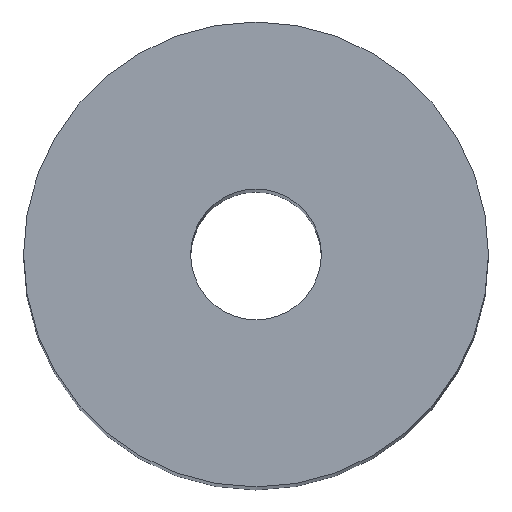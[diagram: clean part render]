
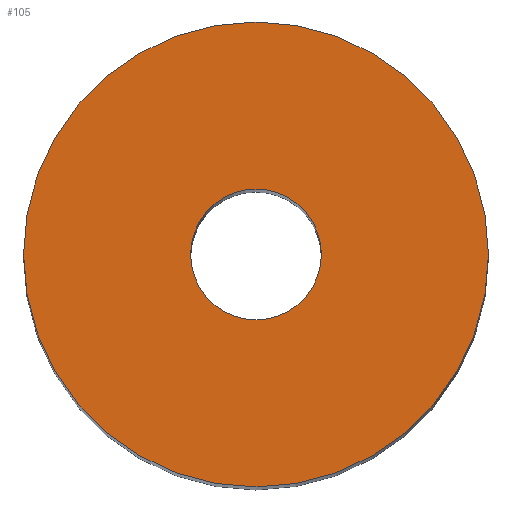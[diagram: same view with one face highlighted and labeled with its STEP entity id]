
A CAD part, top view. The second image highlights one B-rep face of the part: STEP entity #105.
In plain terms, the highlighted planar face has unit normal (0, 0, 1).
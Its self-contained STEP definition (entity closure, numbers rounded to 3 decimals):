
#21 = EDGE_CURVE('',#22,#22,#24,.T.);
#22 = VERTEX_POINT('',#23);
#23 = CARTESIAN_POINT('',(8.,0.,60.));
#24 = SURFACE_CURVE('',#25,(#30,#42),.PCURVE_S1.);
#25 = CIRCLE('',#26,8.);
#26 = AXIS2_PLACEMENT_3D('',#27,#28,#29);
#27 = CARTESIAN_POINT('',(0.,0.,60.));
#28 = DIRECTION('',(0.,0.,1.));
#29 = DIRECTION('',(1.,0.,-0.));
#30 = PCURVE('',#31,#36);
#31 = CYLINDRICAL_SURFACE('',#32,8.);
#32 = AXIS2_PLACEMENT_3D('',#33,#34,#35);
#33 = CARTESIAN_POINT('',(0.,0.,0.));
#34 = DIRECTION('',(0.,0.,1.));
#35 = DIRECTION('',(1.,0.,-0.));
#36 = DEFINITIONAL_REPRESENTATION('',(#37),#41);
#37 = LINE('',#38,#39);
#38 = CARTESIAN_POINT('',(0.,60.));
#39 = VECTOR('',#40,1.);
#40 = DIRECTION('',(1.,0.));
#41 = ( GEOMETRIC_REPRESENTATION_CONTEXT(2) 
PARAMETRIC_REPRESENTATION_CONTEXT() REPRESENTATION_CONTEXT('2D SPACE',''
  ) );
#42 = PCURVE('',#43,#48);
#43 = PLANE('',#44);
#44 = AXIS2_PLACEMENT_3D('',#45,#46,#47);
#45 = CARTESIAN_POINT('',(0.,0.,60.));
#46 = DIRECTION('',(0.,0.,1.));
#47 = DIRECTION('',(1.,0.,-0.));
#48 = DEFINITIONAL_REPRESENTATION('',(#49),#53);
#49 = CIRCLE('',#50,8.);
#50 = AXIS2_PLACEMENT_2D('',#51,#52);
#51 = CARTESIAN_POINT('',(0.,0.));
#52 = DIRECTION('',(1.,0.));
#53 = ( GEOMETRIC_REPRESENTATION_CONTEXT(2) 
PARAMETRIC_REPRESENTATION_CONTEXT() REPRESENTATION_CONTEXT('2D SPACE',''
  ) );
#105 = ADVANCED_FACE('',(#106,#109),#43,.T.);
#106 = FACE_BOUND('',#107,.T.);
#107 = EDGE_LOOP('',(#108));
#108 = ORIENTED_EDGE('',*,*,#21,.T.);
#109 = FACE_BOUND('',#110,.T.);
#110 = EDGE_LOOP('',(#111));
#111 = ORIENTED_EDGE('',*,*,#112,.F.);
#112 = EDGE_CURVE('',#113,#113,#115,.T.);
#113 = VERTEX_POINT('',#114);
#114 = CARTESIAN_POINT('',(2.25,0.,60.));
#115 = SURFACE_CURVE('',#116,(#121,#128),.PCURVE_S1.);
#116 = CIRCLE('',#117,2.25);
#117 = AXIS2_PLACEMENT_3D('',#118,#119,#120);
#118 = CARTESIAN_POINT('',(0.,0.,60.));
#119 = DIRECTION('',(0.,0.,1.));
#120 = DIRECTION('',(1.,0.,-0.));
#121 = PCURVE('',#43,#122);
#122 = DEFINITIONAL_REPRESENTATION('',(#123),#127);
#123 = CIRCLE('',#124,2.25);
#124 = AXIS2_PLACEMENT_2D('',#125,#126);
#125 = CARTESIAN_POINT('',(0.,0.));
#126 = DIRECTION('',(1.,0.));
#127 = ( GEOMETRIC_REPRESENTATION_CONTEXT(2) 
PARAMETRIC_REPRESENTATION_CONTEXT() REPRESENTATION_CONTEXT('2D SPACE',''
  ) );
#128 = PCURVE('',#129,#134);
#129 = CYLINDRICAL_SURFACE('',#130,2.25);
#130 = AXIS2_PLACEMENT_3D('',#131,#132,#133);
#131 = CARTESIAN_POINT('',(0.,0.,-1.));
#132 = DIRECTION('',(0.,0.,1.));
#133 = DIRECTION('',(1.,0.,-0.));
#134 = DEFINITIONAL_REPRESENTATION('',(#135),#139);
#135 = LINE('',#136,#137);
#136 = CARTESIAN_POINT('',(0.,61.));
#137 = VECTOR('',#138,1.);
#138 = DIRECTION('',(1.,0.));
#139 = ( GEOMETRIC_REPRESENTATION_CONTEXT(2) 
PARAMETRIC_REPRESENTATION_CONTEXT() REPRESENTATION_CONTEXT('2D SPACE',''
  ) );
